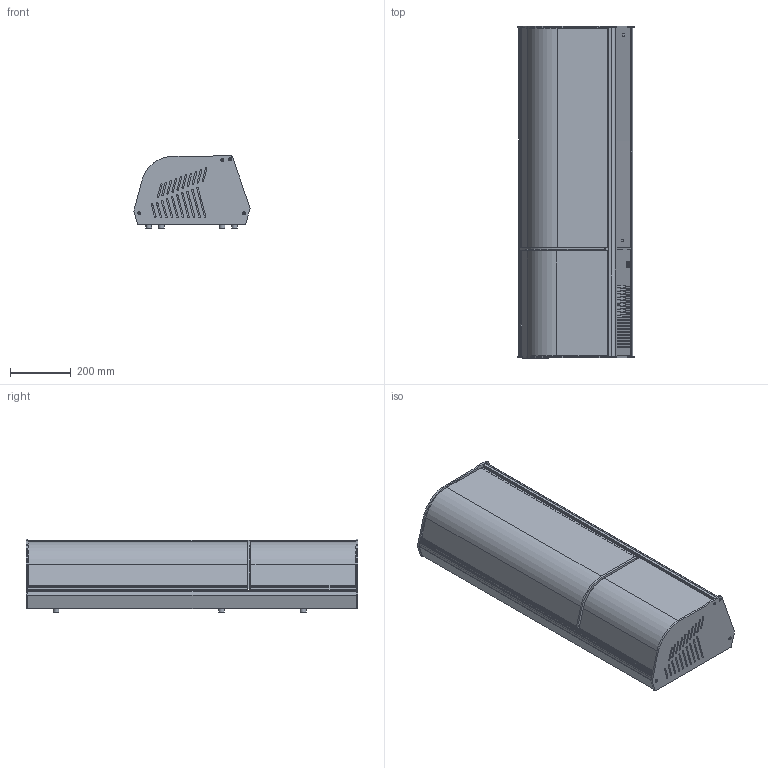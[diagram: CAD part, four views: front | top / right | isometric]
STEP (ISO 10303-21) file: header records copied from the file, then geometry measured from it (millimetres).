
FILE_DESCRIPTION(/* description */ ('Unknown'),/* implementation_level */ '2;1');
FILE_NAME(/* name */ 'vitrina frigorifica 4B_V1',/* time_stamp */ '2018-04-24T13:00:19+02:00',/* author */ ('Unknown'),/* organization */ ('Unknown'),/* preprocessor_version */ 'ST-DEVELOPER v16.7',/* originating_system */ 'DEX',/* authorisation */ $);
FILE_SCHEMA (('CONFIG_CONTROL_DESIGN'));
Length unit declared in the file: millimetre
Products named in the file (17): vitrina frigorifica 4B_V1; 46-1+4B+V1_oa_0; 46-5; 46-1+4B+V1_oa_1; 46-36; 46-38; 46-3+uc; 46-3+4B; 46-9+6699; 46-15+4B_v1; 46-11_v1; 46-12+6702; 46-23+4B_SIMPLE_V1; 46-18+4B_v2; 46-51+U_C._oa_2; 46-25+6705; 46-40
Assembly tree (22 placements, depth 3):
  vitrina frigorifica 4B_V1
    46-1+4B+V1_oa_0
    46-5
    46-1+4B+V1_oa_1
    46-36
    46-38
    46-3+uc
    46-3+4B
    46-9+6699
    46-15+4B_v1
    46-11_v1
    46-12+6702
    46-23+4B_SIMPLE_V1  x2
    46-18+4B_v2
    46-51+U_C._oa_2
      46-25+6705
    46-40  x6
Bounding box: 383.15 x 1092 x 241.45 mm (x, y, z)
Volume: 4979266.8 mm3; surface area: 3731479.3 mm2
Topology: 21 solids, 21 shells, 1303 faces, 3695 edges, 2439 vertices
Faces by surface type: plane 981, cylinder 287, cone 17, bspline 12, torus 6
Full cylindrical faces by diameter (mm): 3 x4, 3.5 x2, 5 x4, 5.5 x4, 6 x9, 8 x19, 16.5 x1, 30 x2
Entity records: 42549 total; most frequent: CARTESIAN_POINT 7551, ORIENTED_EDGE 7126, DIRECTION 6643, EDGE_CURVE 3563, LINE 2971, VECTOR 2971, VERTEX_POINT 2380, AXIS2_PLACEMENT_3D 1836
